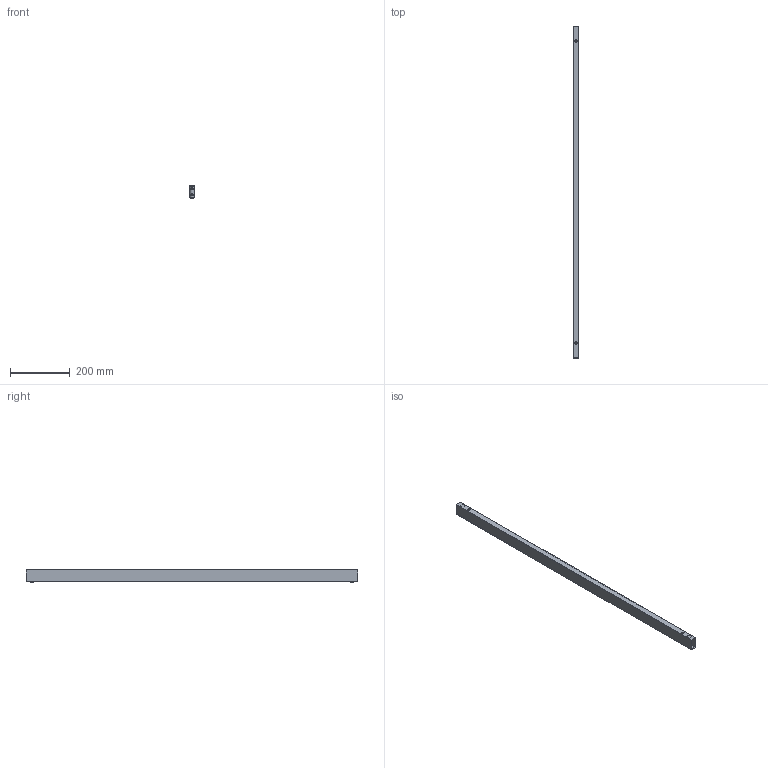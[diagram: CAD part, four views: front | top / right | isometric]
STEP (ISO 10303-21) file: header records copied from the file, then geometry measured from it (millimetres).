
FILE_DESCRIPTION( ( 'STEP AP214' ), '1' );
FILE_NAME( 'D:/Yug/2021/Delta/desk_and_office_organisation/QC/46012.stp', '2021-01-22T12:16:24', ( '' ), ( '' ), ' ', 'PARTsolutions', ' ' );
FILE_SCHEMA( ( 'AUTOMOTIVE_DESIGN { 1 0 10303 214 1 1 1 1 }' ) );
Length unit declared in the file: millimetre
Products named in the file (1): _46012
Bounding box: 20 x 1110 x 41.5 mm (x, y, z)
Volume: 199273.3 mm3; surface area: 256893.7 mm2
Topology: 1 solids, 1 shells, 24 faces, 62 edges, 42 vertices
Faces by surface type: cylinder 12, plane 12
Full cylindrical faces by diameter (mm): 8 x4, 8.3 x4, 12.5 x2, 14.5 x2
Entity records: 1448 total; most frequent: CARTESIAN_POINT 665, DIRECTION 106, ORIENTED_EDGE 96, EDGE_LOOP 60, EDGE_CURVE 48, AXIS2_PLACEMENT_3D 41, VERTEX_POINT 40, FACE_OUTER_BOUND 36
